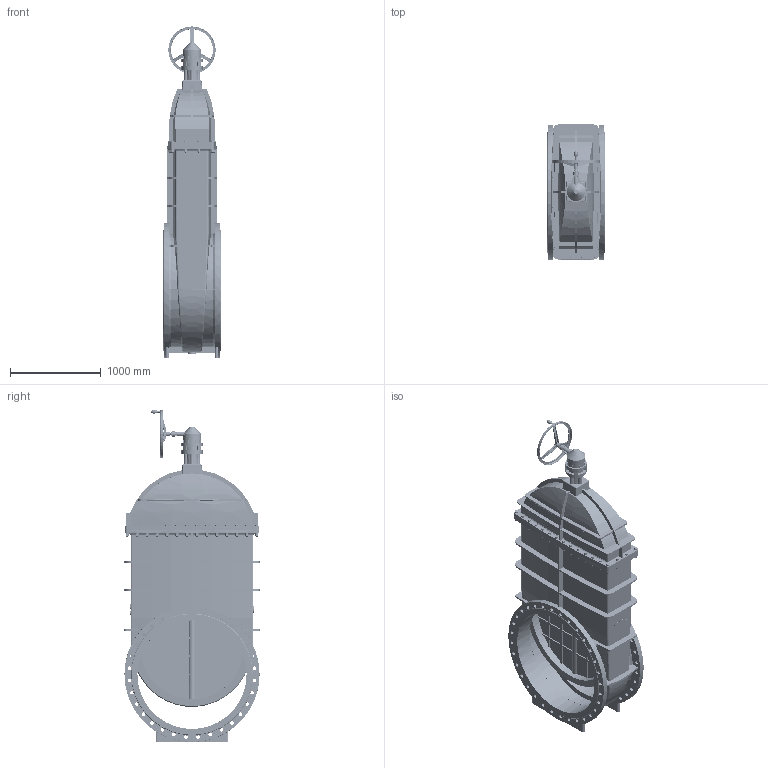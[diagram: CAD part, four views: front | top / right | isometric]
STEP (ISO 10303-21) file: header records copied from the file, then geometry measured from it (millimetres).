
FILE_DESCRIPTION(('STEP AP242'), '1');
FILE_NAME('青溻桄赅', '', ('UNSPECIFIED'), ('UNSPECIFIED'), 'C3D Converter', 'C3D Toolkit', '');
FILE_SCHEMA(('AP242_MANAGED_MODEL_BASED_3D_ENGINEERING_MIM_LF { 1 0 10303 442 1 1 4 }'));
Length unit declared in the file: millimetre
Assembly tree (218 placements, depth 2):
  (unnamed)
    (unnamed)
    (unnamed)
    (unnamed)
    (unnamed)  x2
    (unnamed)
    (unnamed)
    (unnamed)
    (unnamed)
    (unnamed)
    (unnamed)  x32
    (unnamed)  x64
    (unnamed)  x64
    (unnamed)  x32
    (unnamed)  x12
    (unnamed)  x4
Bounding box: 630 x 1485 x 3649.32 mm (x, y, z)
Volume: 196897423.9 mm3; surface area: 31292300.7 mm2
Topology: 223 solids, 224 shells, 3641 faces, 8793 edges, 5694 vertices
Faces by surface type: plane 2074, cylinder 828, cone 444, extrusion 143, torus 88, bspline 64
Full cylindrical faces by diameter (mm): 5 x12, 6 x38, 10 x16, 12 x20, 17.294 x32, 18 x8, 20 x37, 22 x160, 30 x32, 34 x64, 40 x65, 46 x9, 50 x1, 60 x2, 81.293 x1, 84 x5, 92 x1, 174.122 x2, 203.548 x1, 232.973 x3, 460 x1, 470 x1, 510 x1, 520 x1, 1143 x2, 1200 x4, 1268.4 x4, 1314 x1, 1485 x2
Entity records: 80278 total; most frequent: CARTESIAN_POINT 32006, DIRECTION 8289, ORIENTED_EDGE 7895, EDGE_CURVE 4179, AXIS2_PLACEMENT_3D 3114, VERTEX_POINT 3093, EDGE_LOOP 2287, VECTOR 2061
